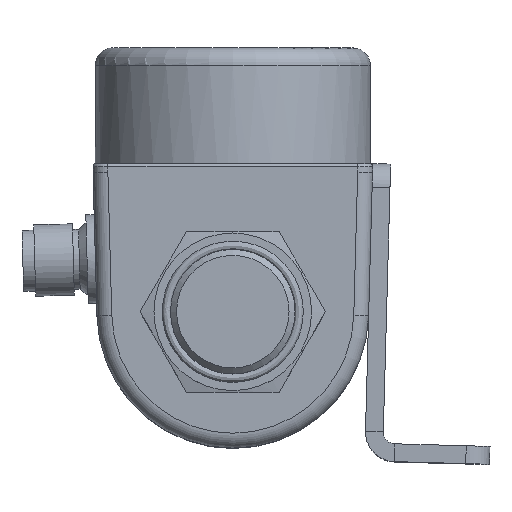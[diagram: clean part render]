
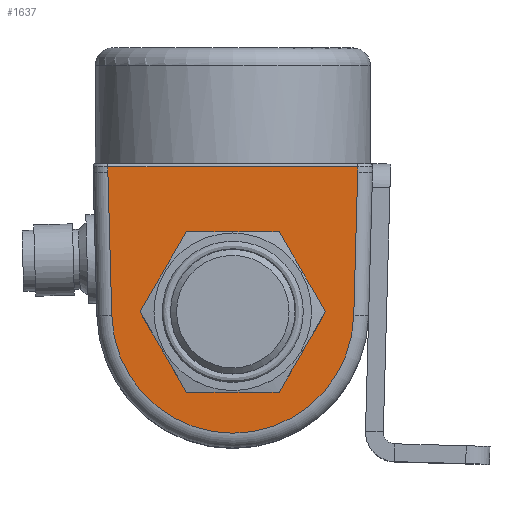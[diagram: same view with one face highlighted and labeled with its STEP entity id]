
A CAD part, top view. The second image highlights one B-rep face of the part: STEP entity #1637.
In plain terms, the highlighted planar face has unit normal (0, 0, 1).
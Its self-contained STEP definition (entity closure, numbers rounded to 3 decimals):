
#49=ELLIPSE('',#1819,2.501,2.5);
#50=ELLIPSE('',#1820,2.501,2.5);
#123=LINE('',#2566,#203);
#131=LINE('',#2605,#211);
#136=LINE('',#2620,#216);
#142=LINE('',#2667,#222);
#143=LINE('',#2671,#223);
#203=VECTOR('',#2097,42.);
#211=VECTOR('',#2149,1.);
#216=VECTOR('',#2166,1.);
#222=VECTOR('',#2220,24.064);
#223=VECTOR('',#2223,24.064);
#270=PLANE('',#1817);
#315=FACE_BOUND('',#528,.T.);
#316=FACE_BOUND('',#529,.T.);
#528=EDGE_LOOP('',(#1261));
#529=EDGE_LOOP('',(#1262,#1263,#1264,#1265,#1266,#1267,#1268,#1269));
#599=CIRCLE('',#1689,13.25);
#658=CIRCLE('',#1818,20.35);
#684=VERTEX_POINT('',#2385);
#740=VERTEX_POINT('',#2563);
#741=VERTEX_POINT('',#2565);
#750=VERTEX_POINT('',#2604);
#754=VERTEX_POINT('',#2618);
#770=VERTEX_POINT('',#2665);
#771=VERTEX_POINT('',#2666);
#772=VERTEX_POINT('',#2668);
#773=VERTEX_POINT('',#2670);
#821=EDGE_CURVE('',#684,#684,#599,.T.);
#905=EDGE_CURVE('',#740,#741,#123,.T.);
#925=EDGE_CURVE('',#741,#750,#131,.T.);
#933=EDGE_CURVE('',#740,#754,#136,.T.);
#951=EDGE_CURVE('',#770,#771,#142,.T.);
#952=EDGE_CURVE('',#772,#770,#658,.T.);
#953=EDGE_CURVE('',#773,#772,#143,.T.);
#954=EDGE_CURVE('',#750,#773,#49,.T.);
#955=EDGE_CURVE('',#771,#754,#50,.T.);
#1261=ORIENTED_EDGE('',*,*,#821,.T.);
#1262=ORIENTED_EDGE('',*,*,#951,.F.);
#1263=ORIENTED_EDGE('',*,*,#952,.F.);
#1264=ORIENTED_EDGE('',*,*,#953,.F.);
#1265=ORIENTED_EDGE('',*,*,#954,.F.);
#1266=ORIENTED_EDGE('',*,*,#925,.F.);
#1267=ORIENTED_EDGE('',*,*,#905,.F.);
#1268=ORIENTED_EDGE('',*,*,#933,.T.);
#1269=ORIENTED_EDGE('',*,*,#955,.F.);
#1637=ADVANCED_FACE('',(#315,#316),#270,.T.);
#1689=AXIS2_PLACEMENT_3D('',#2386,#1897,#1898);
#1817=AXIS2_PLACEMENT_3D('',#2664,#2218,#2219);
#1818=AXIS2_PLACEMENT_3D('',#2669,#2221,#2222);
#1819=AXIS2_PLACEMENT_3D('',#2672,#2224,#2225);
#1820=AXIS2_PLACEMENT_3D('',#2673,#2226,#2227);
#1897=DIRECTION('center_axis',(0.,0.,
-1.));
#1898=DIRECTION('ref_axis',(-0.999,-0.039,0.));
#2097=DIRECTION('',(1.,0.,0.));
#2149=DIRECTION('',(0.,-1.,0.));
#2166=DIRECTION('',(0.,-1.,0.));
#2218=DIRECTION('center_axis',(0.,0.,
1.));
#2219=DIRECTION('ref_axis',(1.,0.,0.));
#2220=DIRECTION('',(-0.027,1.,0.));
#2221=DIRECTION('center_axis',(0.,0.,
-1.));
#2222=DIRECTION('ref_axis',(0.,-1.,0.));
#2223=DIRECTION('',(-0.027,-1.,0.));
#2224=DIRECTION('center_axis',(0.,-1.,0.));
#2225=DIRECTION('ref_axis',(1.,0.,0.));
#2226=DIRECTION('center_axis',(0.,-1.,0.));
#2227=DIRECTION('ref_axis',(-1.,0.,0.));
#2385=CARTESIAN_POINT('',(13.24,0.51,23.5));
#2386=CARTESIAN_POINT('Origin',(0.,0.,
23.5));
#2563=CARTESIAN_POINT('',(-21.,24.5,23.5));
#2565=CARTESIAN_POINT('',(21.,24.5,23.5));
#2566=CARTESIAN_POINT('',(-10.5,24.5,23.5));
#2604=CARTESIAN_POINT('',(21.,23.5,23.5));
#2605=CARTESIAN_POINT('',(21.,25.,23.5));
#2618=CARTESIAN_POINT('',(-21.,23.5,23.5));
#2620=CARTESIAN_POINT('',(-21.,25.,23.5));
#2664=CARTESIAN_POINT('Origin',(0.,4.289,23.5));
#2665=CARTESIAN_POINT('',(-20.342,-0.555,23.5));
#2666=CARTESIAN_POINT('',(-20.999,23.5,23.5));
#2667=CARTESIAN_POINT('',(-20.401,1.588,23.5));
#2668=CARTESIAN_POINT('',(20.342,-0.555,23.5));
#2669=CARTESIAN_POINT('Origin',(0.,0.,
23.5));
#2670=CARTESIAN_POINT('',(20.999,23.5,23.5));
#2671=CARTESIAN_POINT('',(20.73,13.649,23.5));
#2672=CARTESIAN_POINT('Origin',(20.999,23.5,21.));
#2673=CARTESIAN_POINT('Origin',(-20.999,23.5,21.));
